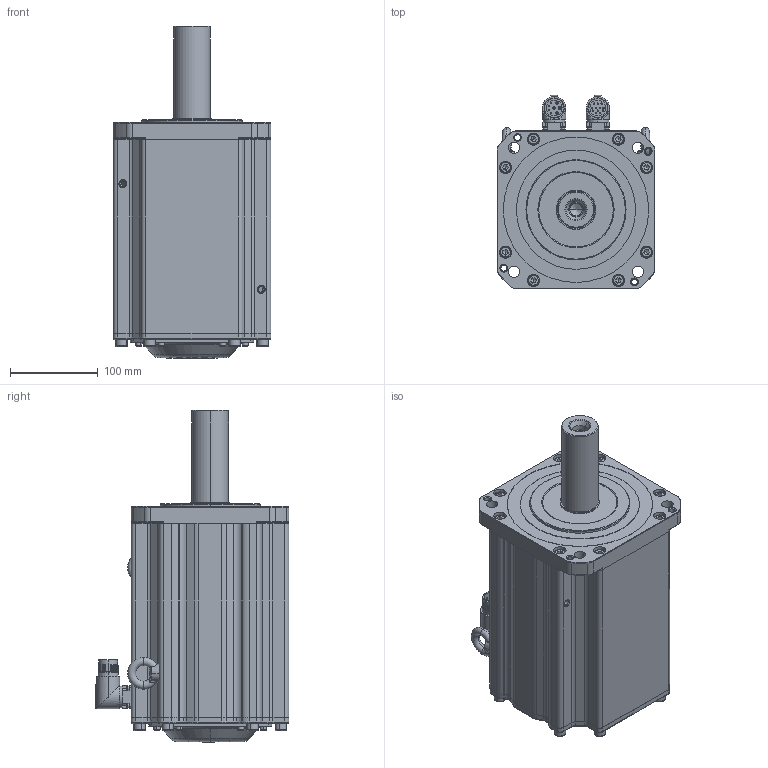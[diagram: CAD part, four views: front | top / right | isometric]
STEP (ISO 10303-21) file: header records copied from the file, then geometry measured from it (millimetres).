
FILE_DESCRIPTION (( 'STEP AP203' ), '1' );
FILE_NAME ('MC20-180-3M15-N552-1¡õPL-NNNN.STEP', '2025-07-30T13:21:25', ( '' ), ( '' ), 'SwSTEP 2.0', 'SolidWorks 2014', '' );
FILE_SCHEMA (( 'CONFIG_CONTROL_DESIGN' ));
Length unit declared in the file: millimetre
Products named in the file (1): MC20-180-3M15-N552-1¡õPL-NNNN
Bounding box: 180 x 221.35 x 378.95 mm (x, y, z)
Volume: 9281653.6 mm3; surface area: 540006.7 mm2
Topology: 40 solids, 42 shells, 2194 faces, 5079 edges, 3029 vertices
Faces by surface type: plane 879, cylinder 578, cone 482, torus 208, bspline 47
Entity records: 64150 total; most frequent: CARTESIAN_POINT 14085, DIRECTION 10995, ORIENTED_EDGE 9938, EDGE_CURVE 4969, AXIS2_PLACEMENT_3D 4263, VERTEX_POINT 3029, LINE 2469, VECTOR 2469
